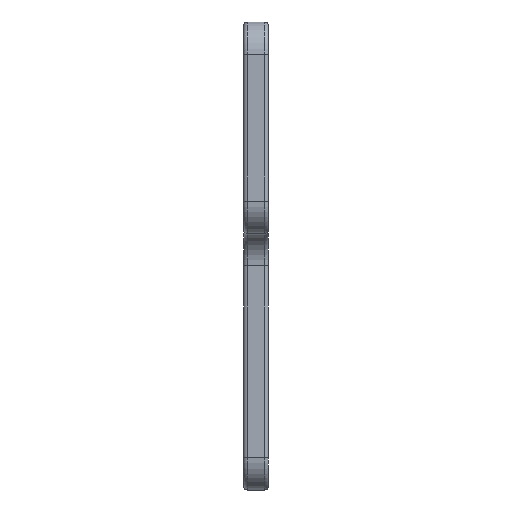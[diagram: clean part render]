
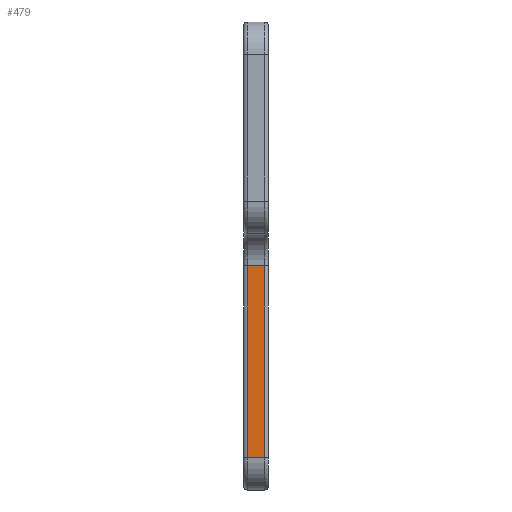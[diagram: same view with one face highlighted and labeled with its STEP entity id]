
A CAD part, left-side view. The second image highlights one B-rep face of the part: STEP entity #479.
In plain terms, the highlighted planar face has unit normal (-1, 0, 0).
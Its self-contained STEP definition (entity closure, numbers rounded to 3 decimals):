
#38 = CARTESIAN_POINT ( 'NONE',  ( -21.339, 2., 34.912 ) ) ;
#70 = EDGE_CURVE ( 'NONE', #1095, #2028, #312, .T. ) ;
#88 = DIRECTION ( 'NONE',  ( 0., -1., 0. ) ) ;
#115 = VECTOR ( 'NONE', #2348, 1000. ) ;
#157 = CARTESIAN_POINT ( 'NONE',  ( -21.339, 0.3, 34.912 ) ) ;
#276 = LINE ( 'NONE', #2194, #2297 ) ;
#312 = LINE ( 'NONE', #870, #1863 ) ;
#405 = EDGE_LOOP ( 'NONE', ( #2219, #2192, #719, #443 ) ) ;
#443 = ORIENTED_EDGE ( 'NONE', *, *, #1583, .T. ) ;
#445 = CARTESIAN_POINT ( 'NONE',  ( -21.339, 0.3, 50.333 ) ) ;
#479 = ADVANCED_FACE ( 'NONE', ( #2091 ), #1207, .F. ) ;
#493 = VECTOR ( 'NONE', #1910, 1000. ) ;
#643 = LINE ( 'NONE', #2503, #115 ) ;
#719 = ORIENTED_EDGE ( 'NONE', *, *, #70, .F. ) ;
#870 = CARTESIAN_POINT ( 'NONE',  ( -21.339, 2., 50.333 ) ) ;
#1022 = LINE ( 'NONE', #1891, #493 ) ;
#1095 = VERTEX_POINT ( 'NONE', #1643 ) ;
#1207 = PLANE ( 'NONE',  #1868 ) ;
#1407 = DIRECTION ( 'NONE',  ( 0., 0., -1. ) ) ;
#1416 = DIRECTION ( 'NONE',  ( 1., 0., 0. ) ) ;
#1558 = VERTEX_POINT ( 'NONE', #2530 ) ;
#1583 = EDGE_CURVE ( 'NONE', #1095, #1558, #643, .T. ) ;
#1620 = DIRECTION ( 'NONE',  ( 0., -1., 0. ) ) ;
#1643 = CARTESIAN_POINT ( 'NONE',  ( -21.339, 1.7, 50.333 ) ) ;
#1792 = VERTEX_POINT ( 'NONE', #157 ) ;
#1843 = EDGE_CURVE ( 'NONE', #1792, #2028, #1022, .T. ) ;
#1863 = VECTOR ( 'NONE', #88, 1000. ) ;
#1868 = AXIS2_PLACEMENT_3D ( 'NONE', #38, #1416, #1407 ) ;
#1891 = CARTESIAN_POINT ( 'NONE',  ( -21.339, 0.3, 34.912 ) ) ;
#1910 = DIRECTION ( 'NONE',  ( 0., 0., 1. ) ) ;
#2028 = VERTEX_POINT ( 'NONE', #445 ) ;
#2091 = FACE_OUTER_BOUND ( 'NONE', #405, .T. ) ;
#2192 = ORIENTED_EDGE ( 'NONE', *, *, #1843, .T. ) ;
#2194 = CARTESIAN_POINT ( 'NONE',  ( -21.339, 2., 34.912 ) ) ;
#2219 = ORIENTED_EDGE ( 'NONE', *, *, #2477, .T. ) ;
#2297 = VECTOR ( 'NONE', #1620, 1000. ) ;
#2348 = DIRECTION ( 'NONE',  ( 0., 0., -1. ) ) ;
#2477 = EDGE_CURVE ( 'NONE', #1558, #1792, #276, .T. ) ;
#2503 = CARTESIAN_POINT ( 'NONE',  ( -21.339, 1.7, 34.912 ) ) ;
#2530 = CARTESIAN_POINT ( 'NONE',  ( -21.339, 1.7, 34.912 ) ) ;
